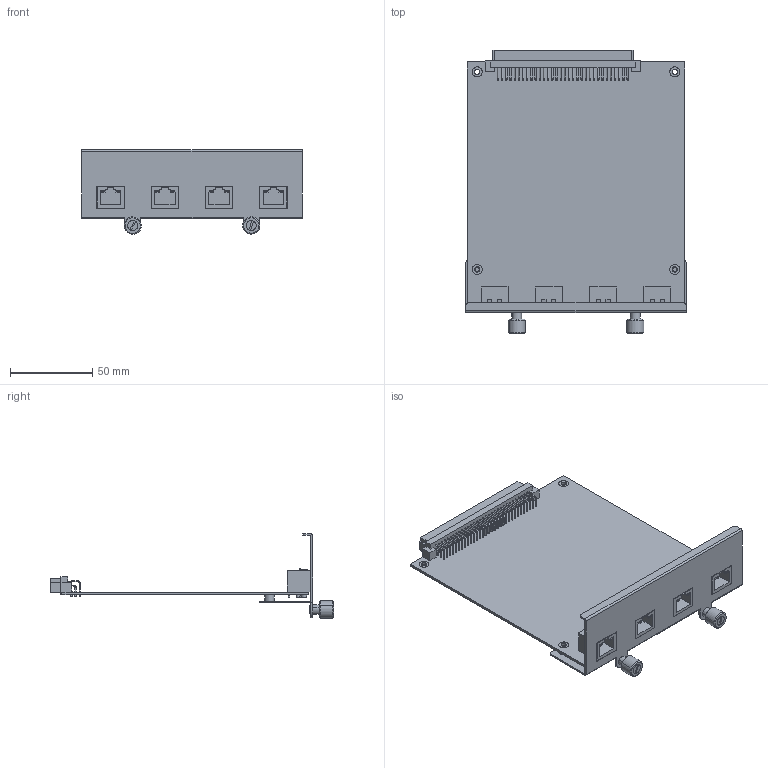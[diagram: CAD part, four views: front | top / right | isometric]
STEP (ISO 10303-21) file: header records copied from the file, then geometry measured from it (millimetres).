
FILE_DESCRIPTION((''),'2;1');
FILE_NAME('DA-LN04-RJ','2014-06-30T',('Laban_Liu'),(''),'PRO/ENGINEER BY PARAMETRIC TECHNOLOGY CORPORATION, 2013230','PRO/ENGINEER BY PARAMETRIC TECHNOLOGY CORPORATION, 2013230','');
FILE_SCHEMA(('CONFIG_CONTROL_DESIGN'));
Length unit declared in the file: millimetre
Products named in the file (1): DA-LN04-RJ
Bounding box: 134 x 171.95 x 51.25 mm (x, y, z)
Volume: 60544 mm3; surface area: 74637.6 mm2
Topology: 2 solids, 2 shells, 1923 faces, 4640 edges, 3020 vertices
Faces by surface type: plane 953, cylinder 770, torus 192, cone 8
Entity records: 56910 total; most frequent: DIRECTION 10414, CARTESIAN_POINT 9599, ORIENTED_EDGE 9280, EDGE_CURVE 4640, AXIS2_PLACEMENT_3D 3859, VERTEX_POINT 3020, VECTOR 2696, LINE 2696
